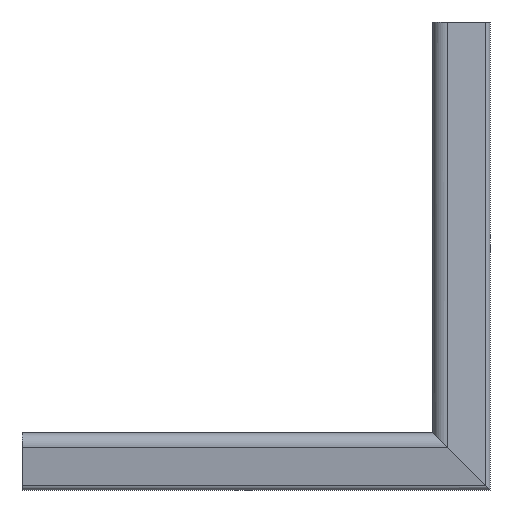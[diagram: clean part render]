
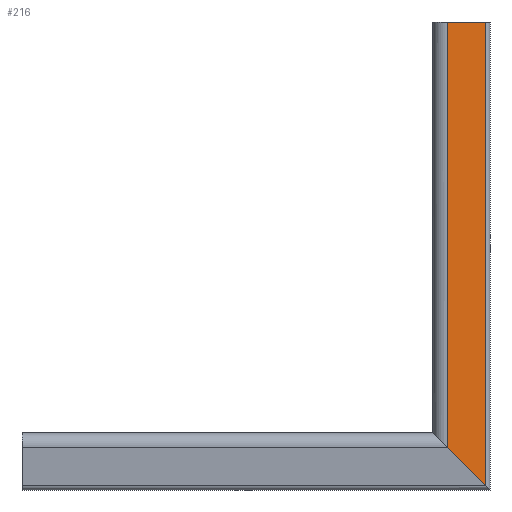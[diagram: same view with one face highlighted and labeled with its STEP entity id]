
A CAD part, left-side view. The second image highlights one B-rep face of the part: STEP entity #216.
In plain terms, the highlighted planar face has unit normal (-0.996, -0.085, 0) as drawn and (0, -0.085, -0.996) by its records, which use the part's own axes.
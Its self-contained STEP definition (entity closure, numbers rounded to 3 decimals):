
#216 = ADVANCED_FACE( '', ( #379 ), #380, .F. );
#379 = FACE_OUTER_BOUND( '', #612, .T. );
#380 = PLANE( '', #613 );
#612 = EDGE_LOOP( '', ( #1079, #1080, #1081, #1082 ) );
#613 = AXIS2_PLACEMENT_3D( '', #1083, #1084, #1085 );
#1079 = ORIENTED_EDGE( '', *, *, #1896, .F. );
#1080 = ORIENTED_EDGE( '', *, *, #1895, .T. );
#1081 = ORIENTED_EDGE( '', *, *, #1897, .T. );
#1082 = ORIENTED_EDGE( '', *, *, #1898, .F. );
#1083 = CARTESIAN_POINT( '', ( 120., 1.054, -3.998 ) );
#1084 = DIRECTION( '', ( 0., 0.085, 0.996 ) );
#1085 = DIRECTION( '', ( 0., -0.996, 0.085 ) );
#1895 = EDGE_CURVE( '', #2321, #2323, #2325, .T. );
#1896 = EDGE_CURVE( '', #2321, #2326, #2327, .T. );
#1897 = EDGE_CURVE( '', #2323, #2328, #2329, .T. );
#1898 = EDGE_CURVE( '', #2326, #2328, #2330, .T. );
#2321 = VERTEX_POINT( '', #2958 );
#2323 = VERTEX_POINT( '', #2960 );
#2325 = LINE( '', #2962, #2963 );
#2326 = VERTEX_POINT( '', #2964 );
#2327 = LINE( '', #2965, #2966 );
#2328 = VERTEX_POINT( '', #2967 );
#2329 = LINE( '', #2968, #2969 );
#2330 = LINE( '', #2970, #2971 );
#2958 = CARTESIAN_POINT( '', ( 105.446, 1.054, -3.998 ) );
#2960 = CARTESIAN_POINT( '', ( 0., 1.054, -3.998 ) );
#2962 = CARTESIAN_POINT( '', ( 120., 1.054, -3.998 ) );
#2963 = VECTOR( '', #3631, 1000. );
#2964 = CARTESIAN_POINT( '', ( 96.785, 9.715, -4.739 ) );
#2965 = CARTESIAN_POINT( '', ( 112.696, -6.196, -3.377 ) );
#2966 = VECTOR( '', #3632, 1000. );
#2967 = CARTESIAN_POINT( '', ( 0., 9.715, -4.739 ) );
#2968 = CARTESIAN_POINT( '', ( 0., 1.054, -3.998 ) );
#2969 = VECTOR( '', #3633, 1000. );
#2970 = CARTESIAN_POINT( '', ( 120., 9.715, -4.739 ) );
#2971 = VECTOR( '', #3634, 1000. );
#3631 = DIRECTION( '', ( -1., 0., 0. ) );
#3632 = DIRECTION( '', ( -0.706, 0.706, -0.06 ) );
#3633 = DIRECTION( '', ( 0., 0.996, -0.085 ) );
#3634 = DIRECTION( '', ( -1., 0., 0. ) );
